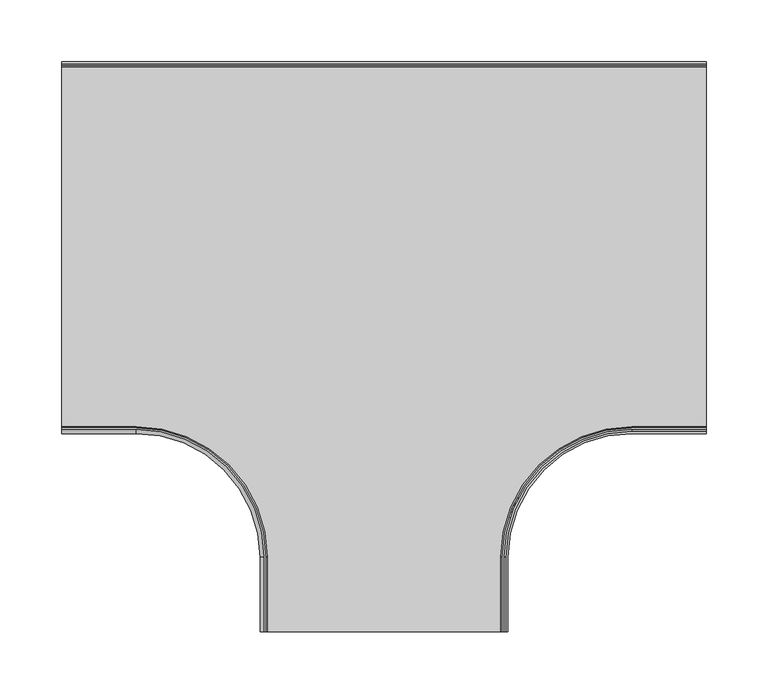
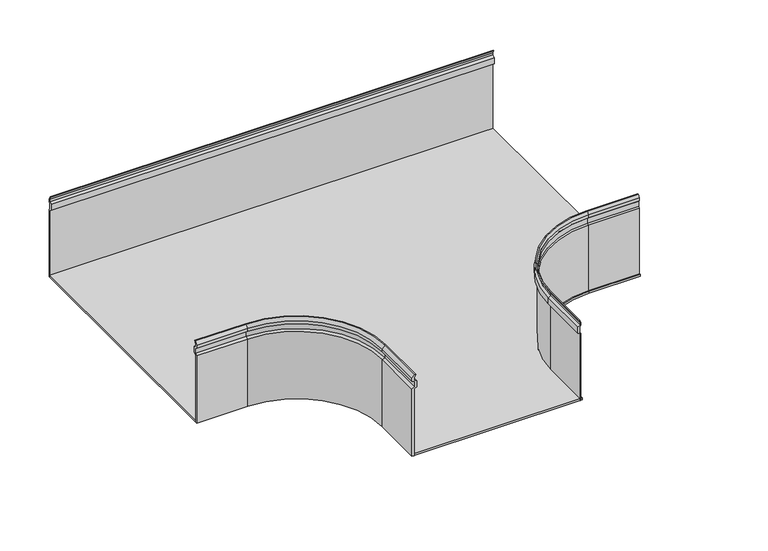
"""IFC4 building model written with IfcOpenShell, lengths in millimetres: cable carrier fitting geometry, TERC_Horizontal Tee_Basortray : Basortray TERC-GS."""

from ifc_helpers import new_model, si_unit, point, frame, frame_2d, origin, place, context, project, spatial, polyline, circle_curve, trimmed, segment, composite_curve, outline, extrude, source, transform, mapped, element, save
from ifc_brep_helpers import plane_surface, cylinder_surface, revolved_surface, advanced_brep


def cable_carrier_fitting_490ff1a4(model_context):
    return source(origin(), model_context, "Body", "SolidModel", [
        extrude(outline(polyline([(149.2, -50.0), (149.2, 33.0765431), (146.1018079, 34.6347352), (146.1018079, 41.8828068), (149.2, 43.440999), (149.2, 46.3595405), (147.2463767, 50.0), (148.3683446, 50.0), (150.0, 46.7016419), (150.0, 43.0267854), (148.6418078, 41.4685933), (148.6418078, 35.0489488), (150.0, 33.4907566), (150.0, -50.0), (149.2, -50.0)])), frame((-260.0, 0.0, 0.0), z_axis=(1.0, 0.0, 0.0), x_axis=(0.0, 1.0, 0.0)), (0.0, 0.0, 1.0), 520.0),
        advanced_brep(
        [(97.46, -310.0, 33.0765431), (97.46, -310.0, -50.0), (98.26, -310.0, -50.0), (98.26, -310.0, 33.4907566), (96.9018079, -310.0, 35.0489488), (96.9018079, -310.0, 41.4685933), (98.26, -310.0, 43.0267854), (98.26, -310.0, 46.7016419), (96.6283446, -310.0, 50.0), (95.5063767, -310.0, 50.0), (97.46, -310.0, 46.3595405), (97.46, -310.0, 43.440999), (94.3618079, -310.0, 41.8828068), (94.3618079, -310.0, 34.6347352), (98.26, -250.0, -50.0), (98.26, -250.0, 33.4907566), (97.46, -250.0, 33.0765431), (97.46, -250.0, -50.0), (200.0, -148.26, 33.4907566), (200.0, -148.26, -50.0), (200.0, -147.46, -50.0), (200.0, -147.46, 33.0765431), (260.0, -147.46, 33.0765431), (260.0, -144.3618079, 34.6347352), (260.0, -144.3618079, 41.8828068), (260.0, -147.46, 43.440999), (260.0, -147.46, 46.3595405), (260.0, -145.5063767, 50.0), (260.0, -146.6283446, 50.0), (260.0, -148.26, 46.7016419), (260.0, -148.26, 43.0267854), (260.0, -146.9018079, 41.4685933), (260.0, -146.9018079, 35.0489488), (260.0, -148.26, 33.4907566), (260.0, -148.26, -50.0), (260.0, -147.46, -50.0), (94.3618079, -250.0, 34.6347352), (94.3618079, -250.0, 41.8828068), (97.46, -250.0, 43.440999), (97.46, -250.0, 46.3595405), (95.5063767, -250.0, 50.0), (96.6283446, -250.0, 50.0), (200.0, -146.6283446, 50.0), (200.0, -145.5063767, 50.0), (98.26, -250.0, 46.7016419), (98.26, -250.0, 43.0267854), (96.9018079, -250.0, 41.4685933), (96.9018079, -250.0, 35.0489488), (200.0, -144.3618079, 34.6347352), (200.0, -144.3618079, 41.8828068), (200.0, -147.46, 43.440999), (200.0, -147.46, 46.3595405), (200.0, -148.26, 46.7016419), (200.0, -148.26, 43.0267854), (200.0, -146.9018079, 41.4685933), (200.0, -146.9018079, 35.0489488)],
        [
            (0, 1),
            (1, 2),
            (2, 3),
            (3, 4),
            (4, 5),
            (5, 6),
            (6, 7),
            (7, 8),
            (8, 9),
            (9, 10),
            (10, 11),
            (11, 12),
            (12, 13),
            (13, 0),
            (2, 14),
            (14, 15),
            (15, 3),
            (0, 16),
            (16, 17),
            (17, 1),
            (18, 15, circle_curve(frame((200.0, -250.0, 33.4907566), z_axis=(0.0, 0.0, 1.0), x_axis=(-1.0, 0.0, 0.0)), 101.74)),
            (14, 19, circle_curve(frame((200.0, -250.0, -50.0), z_axis=(0.0, 0.0, -1.0), x_axis=(-1.0, 0.0, 0.0)), 101.74)),
            (19, 18),
            (20, 17, circle_curve(frame((200.0, -250.0, -50.0), z_axis=(0.0, 0.0, 1.0), x_axis=(-1.0, 0.0, 0.0)), 102.54)),
            (16, 21, circle_curve(frame((200.0, -250.0, 33.0765431), z_axis=(0.0, 0.0, -1.0), x_axis=(-1.0, 0.0, 0.0)), 102.54)),
            (21, 20),
            (22, 23),
            (23, 24),
            (24, 25),
            (25, 26),
            (26, 27),
            (27, 28),
            (28, 29),
            (29, 30),
            (30, 31),
            (31, 32),
            (32, 33),
            (33, 34),
            (34, 35),
            (35, 22),
            (19, 34),
            (33, 18),
            (21, 22),
            (35, 20),
            (13, 36),
            (36, 16),
            (12, 37),
            (37, 36),
            (11, 38),
            (38, 37),
            (10, 39),
            (39, 38),
            (9, 40),
            (40, 39),
            (8, 41),
            (41, 42, circle_curve(frame((200.0, -250.0, 50.0), z_axis=(0.0, 0.0, -1.0), x_axis=(-1.0, 0.0, 0.0)), 103.3716554)),
            (42, 28),
            (27, 43),
            (43, 40, circle_curve(frame((200.0, -250.0, 50.0), z_axis=(0.0, 0.0, 1.0), x_axis=(-1.0, 0.0, 0.0)), 104.4936233)),
            (7, 44),
            (44, 41),
            (6, 45),
            (45, 44),
            (5, 46),
            (46, 45),
            (4, 47),
            (47, 46),
            (15, 47),
            (36, 48, circle_curve(frame((200.0, -250.0, 34.6347352), z_axis=(0.0, 0.0, -1.0), x_axis=(-1.0, 0.0, 0.0)), 105.6381921)),
            (48, 21),
            (37, 49, circle_curve(frame((200.0, -250.0, 41.8828068), z_axis=(0.0, 0.0, -1.0), x_axis=(-1.0, 0.0, 0.0)), 105.6381921)),
            (49, 48),
            (38, 50, circle_curve(frame((200.0, -250.0, 43.440999), z_axis=(0.0, 0.0, -1.0), x_axis=(-1.0, 0.0, 0.0)), 102.54)),
            (50, 49),
            (39, 51, circle_curve(frame((200.0, -250.0, 46.3595405), z_axis=(0.0, 0.0, -1.0), x_axis=(-1.0, 0.0, 0.0)), 102.54)),
            (51, 50),
            (43, 51),
            (44, 52, circle_curve(frame((200.0, -250.0, 46.7016419), z_axis=(0.0, 0.0, -1.0), x_axis=(-1.0, 0.0, 0.0)), 101.74)),
            (52, 42),
            (45, 53, circle_curve(frame((200.0, -250.0, 43.0267854), z_axis=(0.0, 0.0, -1.0), x_axis=(-1.0, 0.0, 0.0)), 101.74)),
            (53, 52),
            (46, 54, circle_curve(frame((200.0, -250.0, 41.4685933), z_axis=(0.0, 0.0, -1.0), x_axis=(-1.0, 0.0, 0.0)), 103.0981921)),
            (54, 53),
            (47, 55, circle_curve(frame((200.0, -250.0, 35.0489488), z_axis=(0.0, 0.0, -1.0), x_axis=(-1.0, 0.0, 0.0)), 103.0981921)),
            (55, 54),
            (18, 55),
            (48, 23),
            (49, 24),
            (50, 25),
            (51, 26),
            (52, 29),
            (53, 30),
            (54, 31),
            (55, 32),
        ],
        [
            plane_surface(frame((97.46, -310.0, 0.0), z_axis=(0.0, -1.0, 0.0), x_axis=(0.0, 0.0, 1.0))),
            plane_surface(frame((98.26, -310.0, -50.0), z_axis=(1.0, 0.0, 0.0), x_axis=(0.0, 1.0, 0.0))),
            plane_surface(frame((97.46, -310.0, 33.0765431), z_axis=(-1.0, 0.0, 0.0), x_axis=(0.0, 1.0, 0.0))),
            revolved_surface(polyline([(98.26, -250.0, -50.0), (98.26, -250.0, 33.4907566)]), (200.0, -250.0, 0.0), (0.0, 0.0, -1.0)),
            cylinder_surface(frame((200.0, -250.0, 0.0), z_axis=(0.0, 0.0, -1.0), x_axis=(-1.0, 0.0, 0.0)), 102.54),
            plane_surface(frame((260.0, -147.46, 0.0), z_axis=(1.0, 0.0, 0.0), x_axis=(0.0, 0.0, 1.0))),
            plane_surface(frame((200.0, -148.26, -50.0), z_axis=(0.0, -1.0, 0.0), x_axis=(1.0, 0.0, 0.0))),
            plane_surface(frame((200.0, -147.46, 33.0765431), z_axis=(0.0, 1.0, 0.0), x_axis=(1.0, 0.0, 0.0))),
            plane_surface(frame((94.3618079, -310.0, 34.6347352), z_axis=(-0.4493106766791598, 0.0, -0.8933755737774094), x_axis=(0.0, 1.0, 0.0))),
            plane_surface(frame((94.3618079, -310.0, 41.8828068), z_axis=(-1.0, 0.0, 0.0), x_axis=(0.0, 1.0, 0.0))),
            plane_surface(frame((97.46, -310.0, 43.440999), z_axis=(-0.4493106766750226, 0.0, 0.8933755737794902), x_axis=(0.0, 1.0, 0.0))),
            plane_surface(frame((97.46, -310.0, 46.3595405), z_axis=(-1.0, 0.0, 0.0), x_axis=(0.0, 1.0, 0.0))),
            plane_surface(frame((95.5063767, -310.0, 50.0), z_axis=(-0.8811394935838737, 0.0, -0.47285641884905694), x_axis=(0.0, 1.0, 0.0))),
            plane_surface(frame((96.6283446, -310.0, 50.0), z_axis=(0.0, 0.0, 1.0), x_axis=(0.0, 1.0, 0.0))),
            plane_surface(frame((98.26, -310.0, 46.7016419), z_axis=(0.8963238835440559, 0.0, 0.4433999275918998), x_axis=(0.0, 1.0, 0.0))),
            plane_surface(frame((98.26, -310.0, 43.0267854), z_axis=(1.0, 0.0, 0.0), x_axis=(0.0, 1.0, 0.0))),
            plane_surface(frame((96.9018079, -310.0, 41.4685933), z_axis=(0.7538282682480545, 0.0, -0.6570714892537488), x_axis=(0.0, 1.0, 0.0))),
            plane_surface(frame((96.9018079, -310.0, 35.0489488), z_axis=(1.0, 0.0, 0.0), x_axis=(0.0, 1.0, 0.0))),
            plane_surface(frame((98.26, -310.0, 33.4907566), z_axis=(0.7538282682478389, 0.0, 0.6570714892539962), x_axis=(0.0, 1.0, 0.0))),
            revolved_surface(polyline([(94.3618079, -250.0, 34.6347352), (97.46, -250.0, 33.0765431)]), (200.0, -250.0, 0.0), (0.0, 0.0, -1.0)),
            cylinder_surface(frame((200.0, -250.0, 0.0), z_axis=(0.0, 0.0, -1.0), x_axis=(-1.0, 0.0, 0.0)), 105.6381921),
            revolved_surface(polyline([(97.46, -250.0, 43.440999), (94.3618079, -250.0, 41.8828068)]), (200.0, -250.0, 0.0), (0.0, 0.0, -1.0)),
            revolved_surface(polyline([(95.5063767, -250.0, 50.0), (97.46, -250.0, 46.3595405)]), (200.0, -250.0, 0.0), (0.0, 0.0, -1.0)),
            revolved_surface(polyline([(98.26, -250.0, 46.7016419), (96.6283446, -250.0, 50.0)]), (200.0, -250.0, 0.0), (0.0, 0.0, -1.0)),
            revolved_surface(polyline([(98.26, -250.0, 43.0267854), (98.26, -250.0, 46.7016419)]), (200.0, -250.0, 0.0), (0.0, 0.0, -1.0)),
            revolved_surface(polyline([(96.9018079, -250.0, 41.4685933), (98.26, -250.0, 43.0267854)]), (200.0, -250.0, 0.0), (0.0, 0.0, -1.0)),
            revolved_surface(polyline([(96.9018079, -250.0, 35.0489488), (96.9018079, -250.0, 41.4685933)]), (200.0, -250.0, 0.0), (0.0, 0.0, -1.0)),
            revolved_surface(polyline([(98.26, -250.0, 33.4907566), (96.9018079, -250.0, 35.0489488)]), (200.0, -250.0, 0.0), (0.0, 0.0, -1.0)),
            plane_surface(frame((200.0, -144.3618079, 34.6347352), z_axis=(0.0, 0.4493106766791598, -0.8933755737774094), x_axis=(1.0, 0.0, 0.0))),
            plane_surface(frame((200.0, -144.3618079, 41.8828068), z_axis=(0.0, 1.0, 0.0), x_axis=(1.0, 0.0, 0.0))),
            plane_surface(frame((200.0, -147.46, 43.440999), z_axis=(0.0, 0.4493106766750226, 0.8933755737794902), x_axis=(1.0, 0.0, 0.0))),
            plane_surface(frame((200.0, -147.46, 46.3595405), z_axis=(0.0, 1.0, 0.0), x_axis=(1.0, 0.0, 0.0))),
            plane_surface(frame((200.0, -145.5063767, 50.0), z_axis=(0.0, 0.8811394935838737, -0.47285641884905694), x_axis=(1.0, 0.0, 0.0))),
            plane_surface(frame((200.0, -148.26, 46.7016419), z_axis=(0.0, -0.8963238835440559, 0.4433999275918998), x_axis=(1.0, 0.0, 0.0))),
            plane_surface(frame((200.0, -148.26, 43.0267854), z_axis=(0.0, -1.0, 0.0), x_axis=(1.0, 0.0, 0.0))),
            plane_surface(frame((200.0, -146.9018079, 41.4685933), z_axis=(0.0, -0.7538282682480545, -0.6570714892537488), x_axis=(1.0, 0.0, 0.0))),
            plane_surface(frame((200.0, -146.9018079, 35.0489488), z_axis=(0.0, -1.0, 0.0), x_axis=(1.0, 0.0, 0.0))),
            plane_surface(frame((200.0, -148.26, 33.4907566), z_axis=(0.0, -0.7538282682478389, 0.6570714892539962), x_axis=(1.0, 0.0, 0.0))),
            plane_surface(frame((97.46, -310.0, -50.0), z_axis=(0.0, 0.0, -1.0), x_axis=(0.0, 1.0, 0.0))),
        ],
        [
            (0, [[1, 2, 3, 4, 5, 6, 7, 8, 9, 10, 11, 12, 13, 14]]),
            (1, [[-3, 15, 16, 17]]),
            (2, [[-1, 18, 19, 20]]),
            (3, [[21, -16, 22, 23]]),
            (4, [[24, -19, 25, 26]]),
            (5, [[27, 28, 29, 30, 31, 32, 33, 34, 35, 36, 37, 38, 39, 40]]),
            (6, [[-23, 41, -38, 42]]),
            (7, [[-26, 43, -40, 44]]),
            (8, [[-14, 45, 46, -18]]),
            (9, [[-13, 47, 48, -45]]),
            (10, [[-12, 49, 50, -47]]),
            (11, [[-11, 51, 52, -49]]),
            (12, [[-10, 53, 54, -51]]),
            (13, [[-9, 55, 56, 57, -32, 58, 59, -53]]),
            (14, [[-8, 60, 61, -55]]),
            (15, [[-7, 62, 63, -60]]),
            (16, [[-6, 64, 65, -62]]),
            (17, [[-5, 66, 67, -64]]),
            (18, [[-4, -17, 68, -66]]),
            (19, [[-25, -46, 69, 70]]),
            (20, [[-69, -48, 71, 72]]),
            (21, [[-71, -50, 73, 74]]),
            (4, [[-73, -52, 75, 76]]),
            (22, [[-75, -54, -59, 77]]),
            (23, [[-56, -61, 78, 79]]),
            (24, [[-78, -63, 80, 81]]),
            (25, [[-80, -65, 82, 83]]),
            (26, [[-82, -67, 84, 85]]),
            (27, [[-84, -68, -21, 86]]),
            (28, [[-70, 87, -27, -43]]),
            (29, [[-72, 88, -28, -87]]),
            (30, [[-74, 89, -29, -88]]),
            (31, [[-76, 90, -30, -89]]),
            (32, [[-77, -58, -31, -90]]),
            (33, [[-79, 91, -33, -57]]),
            (34, [[-81, 92, -34, -91]]),
            (35, [[-83, 93, -35, -92]]),
            (36, [[-85, 94, -36, -93]]),
            (37, [[-86, -42, -37, -94]]),
            (38, [[-2, -20, -24, -44, -39, -41, -22, -15]]),
        ],
    ),
        advanced_brep(
        [(-97.46, -310.0, 33.0765431), (-94.3618079, -310.0, 34.6347352), (-94.3618079, -310.0, 41.8828068), (-97.46, -310.0, 43.440999), (-97.46, -310.0, 46.3595405), (-95.5063767, -310.0, 50.0), (-96.6283446, -310.0, 50.0), (-100.0, -310.0, 46.7016419), (-100.0, -310.0, 43.0267854), (-96.9018079, -310.0, 41.4685933), (-96.9018079, -310.0, 35.0489488), (-100.0, -310.0, 33.4907566), (-100.0, -310.0, -50.0), (-97.46, -310.0, -50.0), (-100.0, -250.0, 33.4907566), (-100.0, -250.0, -50.0), (-97.46, -250.0, -50.0), (-97.46, -250.0, 33.0765431), (-200.0, -150.0, -50.0), (-200.0, -150.0, 33.4907566), (-200.0, -147.46, 33.0765431), (-200.0, -147.46, -50.0), (-260.0, -147.46, 33.0765431), (-260.0, -147.46, -50.0), (-260.0, -150.0, -50.0), (-260.0, -150.0, 33.4907566), (-260.0, -146.9018079, 35.0489488), (-260.0, -146.9018079, 41.4685933), (-260.0, -150.0, 43.0267854), (-260.0, -150.0, 46.7016419), (-260.0, -146.6283446, 50.0), (-260.0, -145.5063767, 50.0), (-260.0, -147.46, 46.3595405), (-260.0, -147.46, 43.440999), (-260.0, -144.3618079, 41.8828068), (-260.0, -144.3618079, 34.6347352), (-94.3618079, -250.0, 34.6347352), (-94.3618079, -250.0, 41.8828068), (-97.46, -250.0, 43.440999), (-97.46, -250.0, 46.3595405), (-95.5063767, -250.0, 50.0), (-200.0, -145.5063767, 50.0), (-200.0, -146.6283446, 50.0), (-96.6283446, -250.0, 50.0), (-100.0, -250.0, 46.7016419), (-100.0, -250.0, 43.0267854), (-96.9018079, -250.0, 41.4685933), (-96.9018079, -250.0, 35.0489488), (-200.0, -144.3618079, 34.6347352), (-200.0, -144.3618079, 41.8828068), (-200.0, -147.46, 43.440999), (-200.0, -147.46, 46.3595405), (-200.0, -150.0, 46.7016419), (-200.0, -150.0, 43.0267854), (-200.0, -146.9018079, 41.4685933), (-200.0, -146.9018079, 35.0489488)],
        [
            (0, 1),
            (1, 2),
            (2, 3),
            (3, 4),
            (4, 5),
            (5, 6),
            (6, 7),
            (7, 8),
            (8, 9),
            (9, 10),
            (10, 11),
            (11, 12),
            (12, 13),
            (13, 0),
            (11, 14),
            (14, 15),
            (15, 12),
            (13, 16),
            (16, 17),
            (17, 0),
            (18, 15, circle_curve(frame((-200.0, -250.0, -50.0), z_axis=(0.0, 0.0, -1.0), x_axis=(1.0, 0.0, 0.0)), 100.0)),
            (14, 19, circle_curve(frame((-200.0, -250.0, 33.4907566), z_axis=(0.0, 0.0, 1.0), x_axis=(1.0, 0.0, 0.0)), 100.0)),
            (19, 18),
            (20, 17, circle_curve(frame((-200.0, -250.0, 33.0765431), z_axis=(0.0, 0.0, -1.0), x_axis=(1.0, 0.0, 0.0)), 102.54)),
            (16, 21, circle_curve(frame((-200.0, -250.0, -50.0), z_axis=(0.0, 0.0, 1.0), x_axis=(1.0, 0.0, 0.0)), 102.54)),
            (21, 20),
            (22, 23),
            (23, 24),
            (24, 25),
            (25, 26),
            (26, 27),
            (27, 28),
            (28, 29),
            (29, 30),
            (30, 31),
            (31, 32),
            (32, 33),
            (33, 34),
            (34, 35),
            (35, 22),
            (19, 25),
            (24, 18),
            (21, 23),
            (22, 20),
            (17, 36),
            (36, 1),
            (36, 37),
            (37, 2),
            (37, 38),
            (38, 3),
            (38, 39),
            (39, 4),
            (39, 40),
            (40, 5),
            (40, 41, circle_curve(frame((-200.0, -250.0, 50.0), z_axis=(0.0, 0.0, 1.0), x_axis=(1.0, 0.0, 0.0)), 104.4936233)),
            (41, 31),
            (30, 42),
            (42, 43, circle_curve(frame((-200.0, -250.0, 50.0), z_axis=(0.0, 0.0, -1.0), x_axis=(1.0, 0.0, 0.0)), 103.3716554)),
            (43, 6),
            (43, 44),
            (44, 7),
            (44, 45),
            (45, 8),
            (45, 46),
            (46, 9),
            (46, 47),
            (47, 10),
            (47, 14),
            (48, 36, circle_curve(frame((-200.0, -250.0, 34.6347352), z_axis=(0.0, 0.0, -1.0), x_axis=(1.0, 0.0, 0.0)), 105.6381921)),
            (20, 48),
            (49, 37, circle_curve(frame((-200.0, -250.0, 41.8828068), z_axis=(0.0, 0.0, -1.0), x_axis=(1.0, 0.0, 0.0)), 105.6381921)),
            (48, 49),
            (50, 38, circle_curve(frame((-200.0, -250.0, 43.440999), z_axis=(0.0, 0.0, -1.0), x_axis=(1.0, 0.0, 0.0)), 102.54)),
            (49, 50),
            (51, 39, circle_curve(frame((-200.0, -250.0, 46.3595405), z_axis=(0.0, 0.0, -1.0), x_axis=(1.0, 0.0, 0.0)), 102.54)),
            (50, 51),
            (51, 41),
            (52, 44, circle_curve(frame((-200.0, -250.0, 46.7016419), z_axis=(0.0, 0.0, -1.0), x_axis=(1.0, 0.0, 0.0)), 100.0)),
            (42, 52),
            (53, 45, circle_curve(frame((-200.0, -250.0, 43.0267854), z_axis=(0.0, 0.0, -1.0), x_axis=(1.0, 0.0, 0.0)), 100.0)),
            (52, 53),
            (54, 46, circle_curve(frame((-200.0, -250.0, 41.4685933), z_axis=(0.0, 0.0, -1.0), x_axis=(1.0, 0.0, 0.0)), 103.0981921)),
            (53, 54),
            (55, 47, circle_curve(frame((-200.0, -250.0, 35.0489488), z_axis=(0.0, 0.0, -1.0), x_axis=(1.0, 0.0, 0.0)), 103.0981921)),
            (54, 55),
            (55, 19),
            (35, 48),
            (34, 49),
            (33, 50),
            (32, 51),
            (29, 52),
            (28, 53),
            (27, 54),
            (26, 55),
        ],
        [
            plane_surface(frame((-97.46, -310.0, 0.0), z_axis=(0.0, -1.0, 0.0), x_axis=(0.0, 0.0, 1.0))),
            plane_surface(frame((-100.0, -310.0, 33.4907566), z_axis=(-1.0, 0.0, 0.0), x_axis=(0.0, 1.0, 0.0))),
            plane_surface(frame((-97.46, -310.0, -50.0), z_axis=(1.0, 0.0, 0.0), x_axis=(0.0, 1.0, 0.0))),
            revolved_surface(polyline([(-100.0, -250.0, 33.4907566), (-100.0, -250.0, -50.0)]), (-200.0, -250.0, 0.0), (0.0, 0.0, 1.0)),
            cylinder_surface(frame((-200.0, -250.0, 0.0), z_axis=(0.0, 0.0, 1.0), x_axis=(1.0, 0.0, 0.0)), 102.54),
            plane_surface(frame((-260.0, -147.46, 0.0), z_axis=(-1.0, 0.0, 0.0), x_axis=(0.0, 0.0, 1.0))),
            plane_surface(frame((-200.0, -150.0, 33.4907566), z_axis=(0.0, -1.0, 0.0), x_axis=(-1.0, 0.0, 0.0))),
            plane_surface(frame((-200.0, -147.46, -50.0), z_axis=(0.0, 1.0, 0.0), x_axis=(-1.0, 0.0, 0.0))),
            plane_surface(frame((-97.46, -310.0, 33.0765431), z_axis=(0.44931067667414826, 0.0, -0.8933755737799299), x_axis=(0.0, 1.0, 0.0))),
            plane_surface(frame((-94.3618079, -310.0, 34.6347352), z_axis=(1.0, 0.0, 0.0), x_axis=(0.0, 1.0, 0.0))),
            plane_surface(frame((-94.3618079, -310.0, 41.8828068), z_axis=(0.44931067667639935, 0.0, 0.8933755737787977), x_axis=(0.0, 1.0, 0.0))),
            plane_surface(frame((-97.46, -310.0, 43.440999), z_axis=(1.0, 0.0, 0.0), x_axis=(0.0, 1.0, 0.0))),
            plane_surface(frame((-97.46, -310.0, 46.3595405), z_axis=(0.8811394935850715, 0.0, -0.47285641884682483), x_axis=(0.0, 1.0, 0.0))),
            plane_surface(frame((-95.5063767, -310.0, 50.0), z_axis=(0.0, 0.0, 1.0), x_axis=(0.0, 1.0, 0.0))),
            plane_surface(frame((-96.6283446, -310.0, 50.0), z_axis=(-0.6992941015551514, 0.0, 0.7148340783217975), x_axis=(0.0, 1.0, 0.0))),
            plane_surface(frame((-100.0, -310.0, 46.7016419), z_axis=(-1.0, 0.0, 0.0), x_axis=(0.0, 1.0, 0.0))),
            plane_surface(frame((-100.0, -310.0, 43.0267854), z_axis=(-0.4493106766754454, 0.0, -0.8933755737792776), x_axis=(0.0, 1.0, 0.0))),
            plane_surface(frame((-96.9018079, -310.0, 41.4685933), z_axis=(-1.0, 0.0, 0.0), x_axis=(0.0, 1.0, 0.0))),
            plane_surface(frame((-96.9018079, -310.0, 35.0489488), z_axis=(-0.44931067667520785, 0.0, 0.893375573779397), x_axis=(0.0, 1.0, 0.0))),
            revolved_surface(polyline([(-97.46, -250.0, 33.0765431), (-94.3618079, -250.0, 34.6347352)]), (-200.0, -250.0, 0.0), (0.0, 0.0, 1.0)),
            cylinder_surface(frame((-200.0, -250.0, 0.0), z_axis=(0.0, 0.0, 1.0), x_axis=(1.0, 0.0, 0.0)), 105.6381921),
            revolved_surface(polyline([(-94.3618079, -250.0, 41.8828068), (-97.46, -250.0, 43.440999)]), (-200.0, -250.0, 0.0), (0.0, 0.0, 1.0)),
            revolved_surface(polyline([(-97.46, -250.0, 46.3595405), (-95.5063767, -250.0, 50.0)]), (-200.0, -250.0, 0.0), (0.0, 0.0, 1.0)),
            revolved_surface(polyline([(-96.6283446, -250.0, 50.0), (-100.0, -250.0, 46.7016419)]), (-200.0, -250.0, 0.0), (0.0, 0.0, 1.0)),
            revolved_surface(polyline([(-100.0, -250.0, 46.7016419), (-100.0, -250.0, 43.0267854)]), (-200.0, -250.0, 0.0), (0.0, 0.0, 1.0)),
            revolved_surface(polyline([(-100.0, -250.0, 43.0267854), (-96.9018079, -250.0, 41.4685933)]), (-200.0, -250.0, 0.0), (0.0, 0.0, 1.0)),
            revolved_surface(polyline([(-96.9018079, -250.0, 41.4685933), (-96.9018079, -250.0, 35.0489488)]), (-200.0, -250.0, 0.0), (0.0, 0.0, 1.0)),
            revolved_surface(polyline([(-96.9018079, -250.0, 35.0489488), (-100.0, -250.0, 33.4907566)]), (-200.0, -250.0, 0.0), (0.0, 0.0, 1.0)),
            plane_surface(frame((-200.0, -147.46, 33.0765431), z_axis=(0.0, 0.44931067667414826, -0.8933755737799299), x_axis=(-1.0, 0.0, 0.0))),
            plane_surface(frame((-200.0, -144.3618079, 34.6347352), z_axis=(0.0, 1.0, 0.0), x_axis=(-1.0, 0.0, 0.0))),
            plane_surface(frame((-200.0, -144.3618079, 41.8828068), z_axis=(0.0, 0.44931067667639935, 0.8933755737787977), x_axis=(-1.0, 0.0, 0.0))),
            plane_surface(frame((-200.0, -147.46, 43.440999), z_axis=(0.0, 1.0, 0.0), x_axis=(-1.0, 0.0, 0.0))),
            plane_surface(frame((-200.0, -147.46, 46.3595405), z_axis=(0.0, 0.8811394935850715, -0.47285641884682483), x_axis=(-1.0, 0.0, 0.0))),
            plane_surface(frame((-200.0, -146.6283446, 50.0), z_axis=(0.0, -0.6992941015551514, 0.7148340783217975), x_axis=(-1.0, 0.0, 0.0))),
            plane_surface(frame((-200.0, -150.0, 46.7016419), z_axis=(0.0, -1.0, 0.0), x_axis=(-1.0, 0.0, 0.0))),
            plane_surface(frame((-200.0, -150.0, 43.0267854), z_axis=(0.0, -0.4493106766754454, -0.8933755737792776), x_axis=(-1.0, 0.0, 0.0))),
            plane_surface(frame((-200.0, -146.9018079, 41.4685933), z_axis=(0.0, -1.0, 0.0), x_axis=(-1.0, 0.0, 0.0))),
            plane_surface(frame((-200.0, -146.9018079, 35.0489488), z_axis=(0.0, -0.44931067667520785, 0.893375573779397), x_axis=(-1.0, 0.0, 0.0))),
            plane_surface(frame((-100.0, -310.0, -50.0), z_axis=(0.0, 0.0, -1.0), x_axis=(0.0, 1.0, 0.0))),
        ],
        [
            (0, [[1, 2, 3, 4, 5, 6, 7, 8, 9, 10, 11, 12, 13, 14]]),
            (1, [[-12, 15, 16, 17]]),
            (2, [[-14, 18, 19, 20]]),
            (3, [[21, -16, 22, 23]]),
            (4, [[24, -19, 25, 26]]),
            (5, [[27, 28, 29, 30, 31, 32, 33, 34, 35, 36, 37, 38, 39, 40]]),
            (6, [[-23, 41, -29, 42]]),
            (7, [[-26, 43, -27, 44]]),
            (8, [[-1, -20, 45, 46]]),
            (9, [[-2, -46, 47, 48]]),
            (10, [[-3, -48, 49, 50]]),
            (11, [[-4, -50, 51, 52]]),
            (12, [[-5, -52, 53, 54]]),
            (13, [[-6, -54, 55, 56, -35, 57, 58, 59]]),
            (14, [[-7, -59, 60, 61]]),
            (15, [[-8, -61, 62, 63]]),
            (16, [[-9, -63, 64, 65]]),
            (17, [[-10, -65, 66, 67]]),
            (18, [[-11, -67, 68, -15]]),
            (19, [[69, -45, -24, 70]]),
            (20, [[71, -47, -69, 72]]),
            (21, [[73, -49, -71, 74]]),
            (4, [[75, -51, -73, 76]]),
            (22, [[-55, -53, -75, 77]]),
            (23, [[78, -60, -58, 79]]),
            (24, [[80, -62, -78, 81]]),
            (25, [[82, -64, -80, 83]]),
            (26, [[84, -66, -82, 85]]),
            (27, [[-22, -68, -84, 86]]),
            (28, [[-70, -44, -40, 87]]),
            (29, [[-72, -87, -39, 88]]),
            (30, [[-74, -88, -38, 89]]),
            (31, [[-76, -89, -37, 90]]),
            (32, [[-77, -90, -36, -56]]),
            (33, [[-79, -57, -34, 91]]),
            (34, [[-81, -91, -33, 92]]),
            (35, [[-83, -92, -32, 93]]),
            (36, [[-85, -93, -31, 94]]),
            (37, [[-86, -94, -30, -41]]),
            (38, [[-13, -17, -21, -42, -28, -43, -25, -18]]),
        ],
    ),
        extrude(outline(composite_curve([segment(trimmed(circle_curve(frame_2d((-200.0, -250.0)), 100.0), [point((-100.0, -250.0))], [point((-200.0, -150.0))], True, "CARTESIAN"), True, "CONTINUOUS"), segment(polyline([(-200.0, -150.0), (-260.0, -150.0), (-260.0, 150.0), (260.0, 150.0), (260.0, -150.0), (200.0, -150.0)]), True, "CONTINUOUS"), segment(trimmed(circle_curve(frame_2d((200.0, -250.0)), 100.0), [point((200.0, -150.0))], [point((100.0, -250.0))], True, "CARTESIAN"), True, "CONTINUOUS"), segment(polyline([(100.0, -250.0), (100.0, -310.0), (-100.0, -310.0), (-100.0, -250.0)]), True, "CONTINUOUS")], self_intersect=False)), frame((0.0, 0.0, -50.0), z_axis=(0.0, 0.0, 1.0), x_axis=(1.0, 0.0, 0.0)), (0.0, 0.0, 1.0), 2.54),
    ])


if __name__ == "__main__":
    model = new_model("IFC4")
    model_context = context("Model", 3, world=origin())
    ifc_project = project(units=[si_unit("LENGTHUNIT", "METRE", prefix="MILLI")], contexts=[model_context])
    site = spatial("IfcSite", under=ifc_project)
    building = spatial("IfcBuilding", under=site)
    placement = place(None, origin())
    cable_carrier_fitting_shape = cable_carrier_fitting_490ff1a4(model_context)
    element("IfcCableCarrierFitting", 1, ObjectType="TERC_Horizontal Tee_Basortray : Basortray TERC-GS", at=placement, inside=building, context=model_context, shape_type="MappedRepresentation", body=[
        mapped(cable_carrier_fitting_shape, transform((0.0, 0.0, 0.0), x_axis=(1.0, 0.0, 0.0), y_axis=(0.0, 1.0, 0.0), z_axis=(0.0, 0.0, 1.0))),
    ])
    save(model, "model.ifc")
